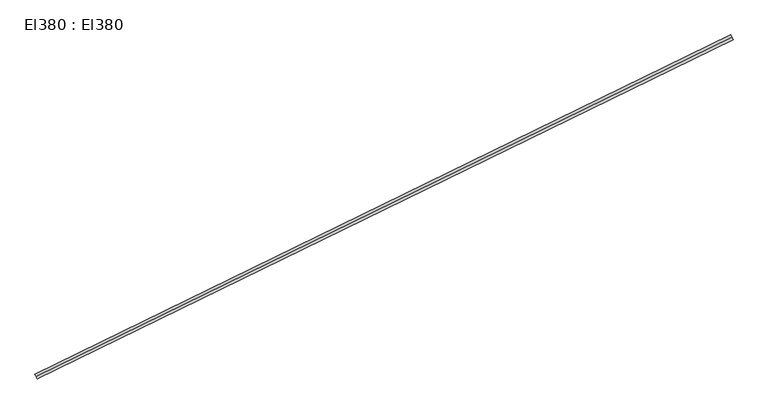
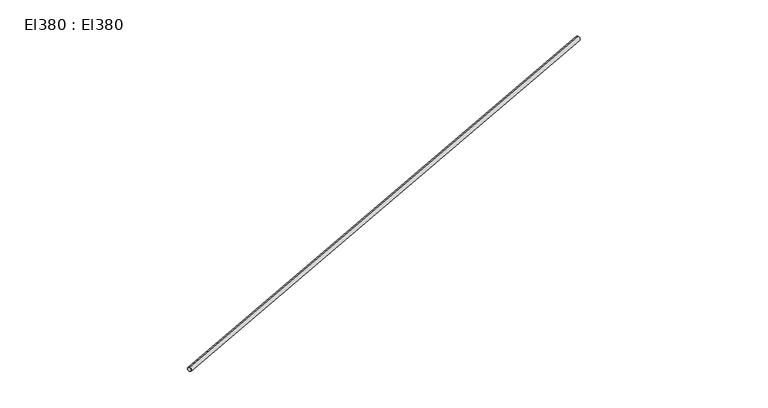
"""IFC4 building model written with IfcOpenShell, lengths in millimetres: cable carrier segment geometry, El380 : El380."""

from ifc_helpers import new_model, si_unit, point, frame, frame_2d, origin, place, context, project, spatial, circle_curve, trimmed, segment, composite_curve, outline, extrude, source, transform, mapped, element, save


def el380_el380_c7f895e7(model_context):
    return source(origin(), model_context, "Body", "SweptSolid", [
        extrude(outline(composite_curve([segment(trimmed(circle_curve(frame_2d((0.0, -9.5)), 9.5), [point((0.0, -19.0))], [point((0.0, 0.0))], False, "CARTESIAN"), True, "CONTINUOUS"), segment(trimmed(circle_curve(frame_2d((0.0, -9.5)), 9.5), [point((0.0, 0.0))], [point((0.0, -19.0))], False, "CARTESIAN"), True, "CONTINUOUS")], self_intersect=False)), frame((3814.76, 21385.086, 9.5), z_axis=(0.8986574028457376, 0.4386511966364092, 0.0), x_axis=(-0.4386511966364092, 0.8986574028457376, 0.0)), (0.0, 0.0, 1.0), 2681.01),
    ])


if __name__ == "__main__":
    model = new_model("IFC4")
    model_context = context("Model", 3, world=origin())
    ifc_project = project(units=[si_unit("LENGTHUNIT", "METRE", prefix="MILLI")], contexts=[model_context])
    site = spatial("IfcSite", under=ifc_project)
    building = spatial("IfcBuilding", under=site)
    placement = place(None, origin())
    el380_el380_shape = el380_el380_c7f895e7(model_context)
    element("IfcCableCarrierSegment", 1, ObjectType="El380 : El380", at=placement, inside=building, context=model_context, shape_type="MappedRepresentation", body=[
        mapped(el380_el380_shape, transform((0.0, 0.0, 0.0), x_axis=(1.0, 0.0, 0.0), y_axis=(0.0, 1.0, 0.0), z_axis=(0.0, 0.0, 1.0))),
    ])
    save(model, "model.ifc")
